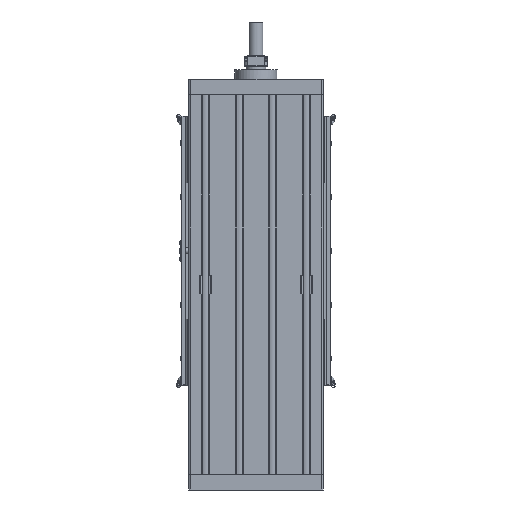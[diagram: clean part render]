
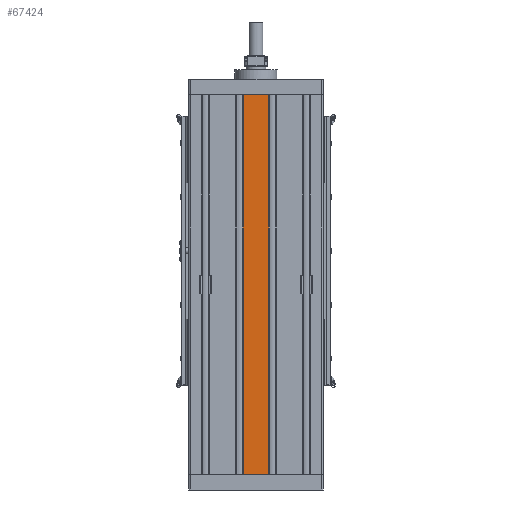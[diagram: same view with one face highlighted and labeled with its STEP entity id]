
A CAD part, front view. The second image highlights one B-rep face of the part: STEP entity #67424.
In plain terms, the highlighted planar face has unit normal (0, -1, 0).
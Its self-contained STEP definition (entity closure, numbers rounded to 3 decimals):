
#2284=PLANE('',#71846);
#4519=FACE_OUTER_BOUND('',#8297,.T.);
#8297=EDGE_LOOP('',(#44890,#44891,#44892,#44893));
#12593=LINE('',#98063,#18606);
#12724=LINE('',#98536,#18737);
#12923=LINE('',#99109,#18936);
#12924=LINE('',#99111,#18937);
#18606=VECTOR('',#78701,10.);
#18737=VECTOR('',#79054,10.);
#18936=VECTOR('',#79599,10.);
#18937=VECTOR('',#79602,10.);
#27443=VERTEX_POINT('',#98060);
#27444=VERTEX_POINT('',#98062);
#27674=VERTEX_POINT('',#98533);
#27675=VERTEX_POINT('',#98535);
#34001=EDGE_CURVE('',#27443,#27444,#12593,.T.);
#34240=EDGE_CURVE('',#27674,#27675,#12724,.T.);
#34527=EDGE_CURVE('',#27674,#27444,#12923,.T.);
#34528=EDGE_CURVE('',#27675,#27443,#12924,.T.);
#44890=ORIENTED_EDGE('',*,*,#34527,.T.);
#44891=ORIENTED_EDGE('',*,*,#34001,.F.);
#44892=ORIENTED_EDGE('',*,*,#34528,.F.);
#44893=ORIENTED_EDGE('',*,*,#34240,.F.);
#67424=ADVANCED_FACE('',(#4519),#2284,.T.);
#71846=AXIS2_PLACEMENT_3D('',#99110,#79600,#79601);
#78701=DIRECTION('',(1.,0.,0.));
#79054=DIRECTION('',(-1.,0.,0.));
#79599=DIRECTION('',(0.,0.,1.));
#79600=DIRECTION('center_axis',(0.,-1.,0.));
#79601=DIRECTION('ref_axis',(1.,0.,0.));
#79602=DIRECTION('',(0.,0.,1.));
#98060=CARTESIAN_POINT('',(-18.9,-50.,232.));
#98062=CARTESIAN_POINT('',(18.9,-50.,232.));
#98063=CARTESIAN_POINT('',(-18.9,-50.,232.));
#98533=CARTESIAN_POINT('',(18.9,-50.,-332.));
#98535=CARTESIAN_POINT('',(-18.9,-50.,-332.));
#98536=CARTESIAN_POINT('',(18.9,-50.,-332.));
#99109=CARTESIAN_POINT('',(18.9,-50.,0.));
#99110=CARTESIAN_POINT('Origin',(-18.9,-50.,0.));
#99111=CARTESIAN_POINT('',(-18.9,-50.,0.));
